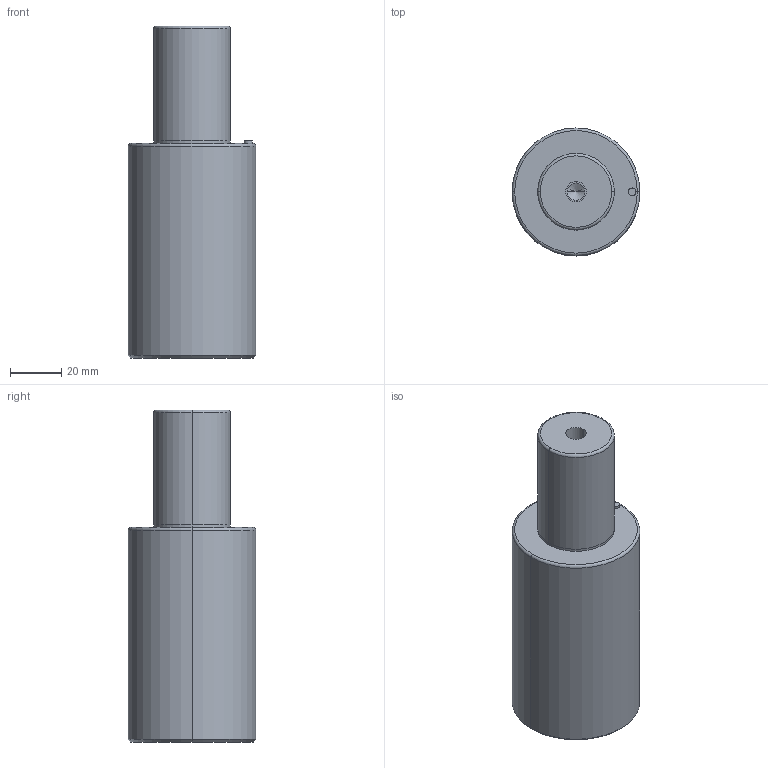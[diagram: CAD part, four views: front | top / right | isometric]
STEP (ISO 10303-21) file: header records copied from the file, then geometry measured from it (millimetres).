
FILE_DESCRIPTION(/* description */ (''),/* implementation_level */ '2;1');
FILE_NAME(/* name */ '3d_gsc50-45_03835_r00.stp',/* time_stamp */ '2011-01-10T14:15:21+09:00',/* author */ ('MISUMI'),/* organization */ (''),/* preprocessor_version */ 'ST-DEVELOPER v11',/* originating_system */ 'UGS - NX 5.0',/* authorisation */ '');
FILE_SCHEMA (('CONFIG_CONTROL_DESIGN'));
Length unit declared in the file: millimetre
Products named in the file (1): 3d_gsc50-45_03835_r00
Bounding box: 50 x 50 x 130 mm (x, y, z)
Volume: 195337.3 mm3; surface area: 22149.7 mm2
Topology: 1 solids, 1 shells, 32 faces, 66 edges, 38 vertices
Faces by surface type: cylinder 16, cone 6, plane 6, torus 4
Entity records: 912 total; most frequent: DIRECTION 168, CARTESIAN_POINT 133, ORIENTED_EDGE 124, AXIS2_PLACEMENT_3D 73, EDGE_CURVE 62, CIRCLE 40, EDGE_LOOP 38, VERTEX_POINT 38
